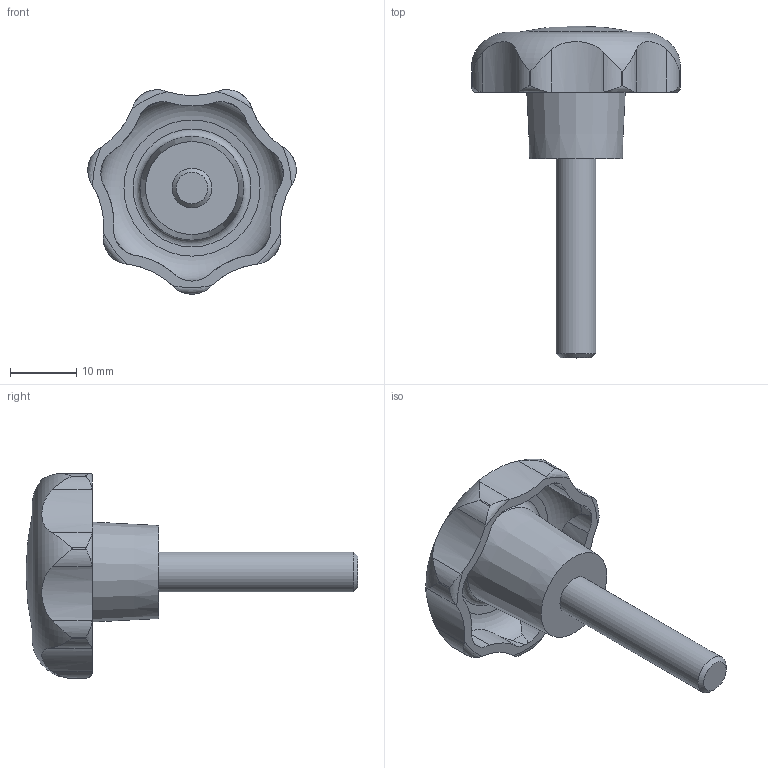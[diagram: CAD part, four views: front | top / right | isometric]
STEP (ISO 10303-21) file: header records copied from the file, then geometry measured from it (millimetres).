
FILE_DESCRIPTION( ( 'STEP AP203' ), '1' );
FILE_NAME( 'C:/Temp/Ganter_Step_05_03_2020/data/2_2/gn_6336_4/gn_6336_4_st/Star knob GN 6336.4-ST-32-M6-30.stp', '2020-03-05T12:07:21', ( 'License CC BY-ND 4.0' ), ( 'CADENAS' ), ' ', 'PARTsolutions', ' ' );
FILE_SCHEMA( ( 'CONFIG_CONTROL_DESIGN' ) );
Length unit declared in the file: millimetre
Products named in the file (1): _Star knob GN 6336.4-ST-32-M6-30
Bounding box: 31.4 x 50 x 30.81 mm (x, y, z)
Volume: 6650.1 mm3; surface area: 3741.6 mm2
Topology: 1 solids, 1 shells, 74 faces, 209 edges, 138 vertices
Faces by surface type: cylinder 50, torus 10, cone 10, plane 3, sphere 1
Full cylindrical faces by diameter (mm): 6 x1
Entity records: 3221 total; most frequent: CARTESIAN_POINT 1406, ORIENTED_EDGE 394, DIRECTION 336, EDGE_CURVE 197, AXIS2_PLACEMENT_3D 147, VERTEX_POINT 136, EDGE_LOOP 83, B_SPLINE_CURVE_WITH_KNOTS 83
